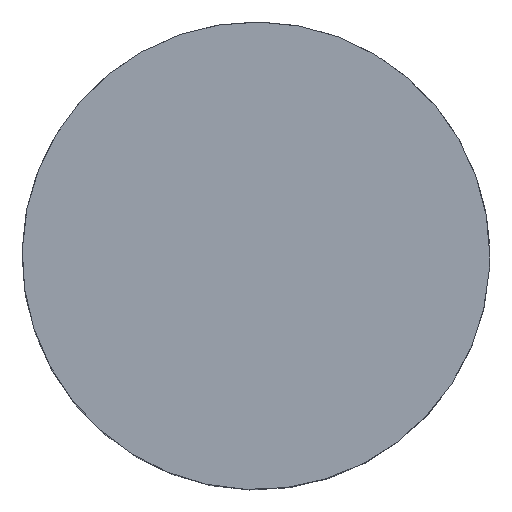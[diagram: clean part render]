
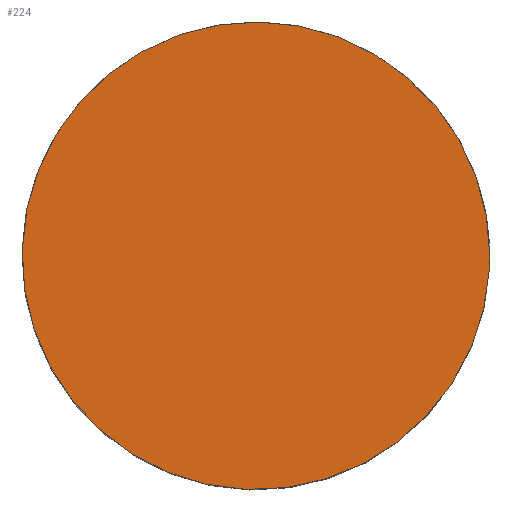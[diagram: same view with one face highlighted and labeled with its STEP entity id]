
A CAD part, top view. The second image highlights one B-rep face of the part: STEP entity #224.
In plain terms, the highlighted planar face has unit normal (0, 0, 1).
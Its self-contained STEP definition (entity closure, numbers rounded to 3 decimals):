
#27=PLANE('',#270);
#61=FACE_OUTER_BOUND('',#88,.T.);
#88=EDGE_LOOP('',(#188));
#109=CIRCLE('',#257,17.5);
#128=VERTEX_POINT('',#390);
#149=EDGE_CURVE('',#128,#128,#109,.T.);
#188=ORIENTED_EDGE('',*,*,#149,.T.);
#224=ADVANCED_FACE('',(#61),#27,.T.);
#257=AXIS2_PLACEMENT_3D('',#391,#322,#323);
#270=AXIS2_PLACEMENT_3D('',#410,#348,#349);
#322=DIRECTION('center_axis',(0.,0.,1.));
#323=DIRECTION('ref_axis',(-1.,0.,0.));
#348=DIRECTION('center_axis',(0.,0.,1.));
#349=DIRECTION('ref_axis',(1.,0.,0.));
#390=CARTESIAN_POINT('',(17.5,0.,22.5));
#391=CARTESIAN_POINT('Origin',(0.,0.,22.5));
#410=CARTESIAN_POINT('Origin',(0.,0.,
22.5));
